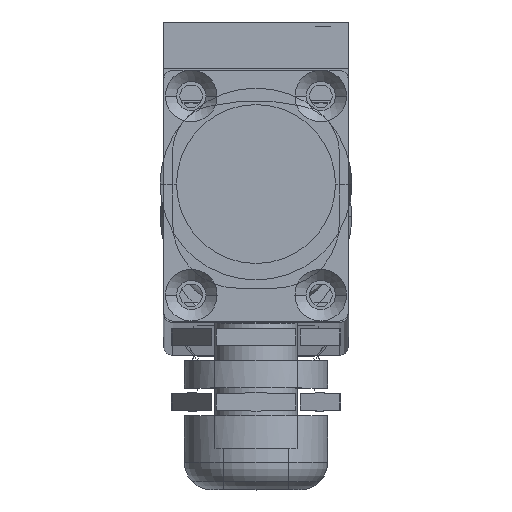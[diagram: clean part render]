
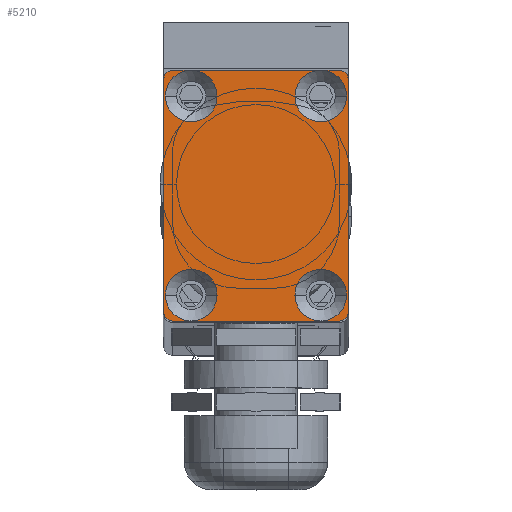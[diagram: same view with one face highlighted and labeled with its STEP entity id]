
A CAD part, top view. The second image highlights one B-rep face of the part: STEP entity #5210.
In plain terms, the highlighted planar face has unit normal (0, 0, 1).
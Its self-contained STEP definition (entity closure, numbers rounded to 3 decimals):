
#4857=CARTESIAN_POINT('',(-7.,-12.,2014.5));
#4858=DIRECTION('',(0.,0.,-1.));
#4859=DIRECTION('',(-1.,0.,0.));
#4860=AXIS2_PLACEMENT_3D('',#4857,#4858,#4859);
#4862=CARTESIAN_POINT('',(-7.,-12.,2014.5));
#4863=DIRECTION('',(0.,0.,-1.));
#4864=DIRECTION('',(0.,-1.,0.));
#4865=AXIS2_PLACEMENT_3D('',#4862,#4863,#4864);
#4867=DIRECTION('',(1.,0.,0.));
#4868=VECTOR('',#4867,2.);
#4869=CARTESIAN_POINT('',(-9.,-14.8,2014.5));
#4870=LINE('',#4869,#4868);
#4871=CARTESIAN_POINT('',(-9.,-13.8,2014.5));
#4872=DIRECTION('',(0.,0.,1.));
#4873=DIRECTION('',(-1.,0.,0.));
#4874=AXIS2_PLACEMENT_3D('',#4871,#4872,#4873);
#4876=DIRECTION('',(0.,-1.,0.));
#4877=VECTOR('',#4876,25.1);
#4878=CARTESIAN_POINT('',(-10.,11.3,2014.5));
#4879=LINE('',#4878,#4877);
#4880=CARTESIAN_POINT('',(-9.,11.3,2014.5));
#4881=DIRECTION('',(0.,0.,-1.));
#4882=DIRECTION('',(-1.,0.,0.));
#4883=AXIS2_PLACEMENT_3D('',#4880,#4881,#4882);
#4885=DIRECTION('',(1.,0.,0.));
#4886=VECTOR('',#4885,2.);
#4887=CARTESIAN_POINT('',(-9.,12.3,2014.5));
#4888=LINE('',#4887,#4886);
#4889=CARTESIAN_POINT('',(-7.,9.5,2014.5));
#4890=DIRECTION('',(0.,0.,-1.));
#4891=DIRECTION('',(-1.,0.,0.));
#4892=AXIS2_PLACEMENT_3D('',#4889,#4890,#4891);
#4894=CARTESIAN_POINT('',(-7.,9.5,2014.5));
#4895=DIRECTION('',(0.,0.,-1.));
#4896=DIRECTION('',(1.,0.,0.));
#4897=AXIS2_PLACEMENT_3D('',#4894,#4895,#4896);
#4899=CARTESIAN_POINT('',(-7.,9.5,2014.5));
#4900=DIRECTION('',(0.,0.,-1.));
#4901=DIRECTION('',(0.,1.,0.));
#4902=AXIS2_PLACEMENT_3D('',#4899,#4900,#4901);
#4904=DIRECTION('',(1.,0.,0.));
#4905=VECTOR('',#4904,14.);
#4906=CARTESIAN_POINT('',(-7.,12.3,2014.5));
#4907=LINE('',#4906,#4905);
#4908=CARTESIAN_POINT('',(7.,9.5,2014.5));
#4909=DIRECTION('',(0.,0.,-1.));
#4910=DIRECTION('',(-1.,0.,0.));
#4911=AXIS2_PLACEMENT_3D('',#4908,#4909,#4910);
#4913=CARTESIAN_POINT('',(7.,9.5,2014.5));
#4914=DIRECTION('',(0.,0.,-1.));
#4915=DIRECTION('',(1.,0.,0.));
#4916=AXIS2_PLACEMENT_3D('',#4913,#4914,#4915);
#4918=CARTESIAN_POINT('',(7.,9.5,2014.5));
#4919=DIRECTION('',(0.,0.,-1.));
#4920=DIRECTION('',(0.,1.,0.));
#4921=AXIS2_PLACEMENT_3D('',#4918,#4919,#4920);
#4923=DIRECTION('',(1.,0.,0.));
#4924=VECTOR('',#4923,2.);
#4925=CARTESIAN_POINT('',(7.,12.3,2014.5));
#4926=LINE('',#4925,#4924);
#4927=CARTESIAN_POINT('',(9.,11.3,2014.5));
#4928=DIRECTION('',(0.,0.,-1.));
#4929=DIRECTION('',(0.,1.,0.));
#4930=AXIS2_PLACEMENT_3D('',#4927,#4928,#4929);
#4932=DIRECTION('',(0.,1.,0.));
#4933=VECTOR('',#4932,25.1);
#4934=CARTESIAN_POINT('',(10.,-13.8,2014.5));
#4935=LINE('',#4934,#4933);
#4936=CARTESIAN_POINT('',(9.,-13.8,2014.5));
#4937=DIRECTION('',(0.,0.,1.));
#4938=DIRECTION('',(0.,-1.,0.));
#4939=AXIS2_PLACEMENT_3D('',#4936,#4937,#4938);
#4941=DIRECTION('',(1.,0.,0.));
#4942=VECTOR('',#4941,2.);
#4943=CARTESIAN_POINT('',(7.,-14.8,2014.5));
#4944=LINE('',#4943,#4942);
#4945=CARTESIAN_POINT('',(7.,-12.,2014.5));
#4946=DIRECTION('',(0.,0.,-1.));
#4947=DIRECTION('',(1.,0.,0.));
#4948=AXIS2_PLACEMENT_3D('',#4945,#4946,#4947);
#4950=CARTESIAN_POINT('',(7.,-12.,2014.5));
#4951=DIRECTION('',(0.,0.,-1.));
#4952=DIRECTION('',(-1.,0.,0.));
#4953=AXIS2_PLACEMENT_3D('',#4950,#4951,#4952);
#4955=CARTESIAN_POINT('',(7.,-12.,2014.5));
#4956=DIRECTION('',(0.,0.,-1.));
#4957=DIRECTION('',(0.,-1.,0.));
#4958=AXIS2_PLACEMENT_3D('',#4955,#4956,#4957);
#4960=DIRECTION('',(1.,0.,0.));
#4961=VECTOR('',#4960,14.);
#4962=CARTESIAN_POINT('',(-7.,-14.8,2014.5));
#4963=LINE('',#4962,#4961);
#4964=CARTESIAN_POINT('',(-7.,-12.,2014.5));
#4965=DIRECTION('',(0.,0.,-1.));
#4966=DIRECTION('',(1.,0.,0.));
#4967=AXIS2_PLACEMENT_3D('',#4964,#4965,#4966);
#5087=CARTESIAN_POINT('',(-9.,12.3,2014.5));
#5088=CARTESIAN_POINT('',(-10.,11.3,2014.5));
#5089=VERTEX_POINT('',#5087);
#5090=VERTEX_POINT('',#5088);
#5093=CARTESIAN_POINT('',(10.,11.3,2014.5));
#5095=VERTEX_POINT('',#5093);
#5097=CARTESIAN_POINT('',(9.,12.3,2014.5));
#5098=VERTEX_POINT('',#5097);
#5103=CARTESIAN_POINT('',(9.,-14.8,2014.5));
#5104=VERTEX_POINT('',#5103);
#5105=CARTESIAN_POINT('',(10.,-13.8,2014.5));
#5106=VERTEX_POINT('',#5105);
#5111=CARTESIAN_POINT('',(-10.,-13.8,2014.5));
#5112=VERTEX_POINT('',#5111);
#5113=CARTESIAN_POINT('',(-9.,-14.8,2014.5));
#5114=VERTEX_POINT('',#5113);
#5119=CARTESIAN_POINT('',(-9.8,-12.,2014.5));
#5120=CARTESIAN_POINT('',(-4.2,-12.,2014.5));
#5121=VERTEX_POINT('',#5119);
#5122=VERTEX_POINT('',#5120);
#5123=CARTESIAN_POINT('',(-7.,-14.8,2014.5));
#5124=VERTEX_POINT('',#5123);
#5129=CARTESIAN_POINT('',(-4.2,9.5,2014.5));
#5130=CARTESIAN_POINT('',(-9.8,9.5,2014.5));
#5131=VERTEX_POINT('',#5129);
#5132=VERTEX_POINT('',#5130);
#5133=CARTESIAN_POINT('',(-7.,12.3,2014.5));
#5134=VERTEX_POINT('',#5133);
#5139=CARTESIAN_POINT('',(4.2,9.5,2014.5));
#5140=CARTESIAN_POINT('',(7.,12.3,2014.5));
#5141=VERTEX_POINT('',#5139);
#5142=VERTEX_POINT('',#5140);
#5143=CARTESIAN_POINT('',(9.8,9.5,2014.5));
#5144=VERTEX_POINT('',#5143);
#5149=CARTESIAN_POINT('',(9.8,-12.,2014.5));
#5150=CARTESIAN_POINT('',(7.,-14.8,2014.5));
#5151=VERTEX_POINT('',#5149);
#5152=VERTEX_POINT('',#5150);
#5153=CARTESIAN_POINT('',(4.2,-12.,2014.5));
#5154=VERTEX_POINT('',#5153);
#5155=CARTESIAN_POINT('',(0.,-1.25,2014.5));
#5156=DIRECTION('',(0.,0.,1.));
#5157=DIRECTION('',(1.,0.,0.));
#5158=AXIS2_PLACEMENT_3D('',#5155,#5156,#5157);
#5159=PLANE('',#5158);
#5161=ORIENTED_EDGE('',*,*,#5160,.F.);
#5163=ORIENTED_EDGE('',*,*,#5162,.F.);
#5165=ORIENTED_EDGE('',*,*,#5164,.F.);
#5167=ORIENTED_EDGE('',*,*,#5166,.F.);
#5169=ORIENTED_EDGE('',*,*,#5168,.F.);
#5171=ORIENTED_EDGE('',*,*,#5170,.T.);
#5173=ORIENTED_EDGE('',*,*,#5172,.T.);
#5175=ORIENTED_EDGE('',*,*,#5174,.F.);
#5177=ORIENTED_EDGE('',*,*,#5176,.F.);
#5179=ORIENTED_EDGE('',*,*,#5178,.F.);
#5181=ORIENTED_EDGE('',*,*,#5180,.T.);
#5183=ORIENTED_EDGE('',*,*,#5182,.F.);
#5185=ORIENTED_EDGE('',*,*,#5184,.F.);
#5187=ORIENTED_EDGE('',*,*,#5186,.F.);
#5189=ORIENTED_EDGE('',*,*,#5188,.T.);
#5191=ORIENTED_EDGE('',*,*,#5190,.T.);
#5193=ORIENTED_EDGE('',*,*,#5192,.F.);
#5195=ORIENTED_EDGE('',*,*,#5194,.F.);
#5197=ORIENTED_EDGE('',*,*,#5196,.F.);
#5199=ORIENTED_EDGE('',*,*,#5198,.F.);
#5201=ORIENTED_EDGE('',*,*,#5200,.F.);
#5203=ORIENTED_EDGE('',*,*,#5202,.F.);
#5205=ORIENTED_EDGE('',*,*,#5204,.F.);
#5207=ORIENTED_EDGE('',*,*,#5206,.F.);
#5208=EDGE_LOOP('',(#5161,#5163,#5165,#5167,#5169,#5171,#5173,#5175,#5177,#5179,
#5181,#5183,#5185,#5187,#5189,#5191,#5193,#5195,#5197,#5199,#5201,#5203,#5205,
#5207));
#5209=FACE_OUTER_BOUND('',#5208,.F.);
#5210=ADVANCED_FACE('',(#5209),#5159,.T.);
#4861=CIRCLE('',#4860,2.8);
#4866=CIRCLE('',#4865,2.8);
#4875=CIRCLE('',#4874,1.);
#4884=CIRCLE('',#4883,1.);
#4893=CIRCLE('',#4892,2.8);
#4898=CIRCLE('',#4897,2.8);
#4903=CIRCLE('',#4902,2.8);
#4912=CIRCLE('',#4911,2.8);
#4917=CIRCLE('',#4916,2.8);
#4922=CIRCLE('',#4921,2.8);
#4931=CIRCLE('',#4930,1.);
#4940=CIRCLE('',#4939,1.);
#4949=CIRCLE('',#4948,2.8);
#4954=CIRCLE('',#4953,2.8);
#4959=CIRCLE('',#4958,2.8);
#4968=CIRCLE('',#4967,2.8);
#5160=EDGE_CURVE('',#5121,#5122,#4861,.T.);
#5162=EDGE_CURVE('',#5124,#5121,#4866,.T.);
#5164=EDGE_CURVE('',#5114,#5124,#4870,.T.);
#5166=EDGE_CURVE('',#5112,#5114,#4875,.T.);
#5168=EDGE_CURVE('',#5090,#5112,#4879,.T.);
#5170=EDGE_CURVE('',#5090,#5089,#4884,.T.);
#5172=EDGE_CURVE('',#5089,#5134,#4888,.T.);
#5174=EDGE_CURVE('',#5132,#5134,#4893,.T.);
#5176=EDGE_CURVE('',#5131,#5132,#4898,.T.);
#5178=EDGE_CURVE('',#5134,#5131,#4903,.T.);
#5180=EDGE_CURVE('',#5134,#5142,#4907,.T.);
#5182=EDGE_CURVE('',#5141,#5142,#4912,.T.);
#5184=EDGE_CURVE('',#5144,#5141,#4917,.T.);
#5186=EDGE_CURVE('',#5142,#5144,#4922,.T.);
#5188=EDGE_CURVE('',#5142,#5098,#4926,.T.);
#5190=EDGE_CURVE('',#5098,#5095,#4931,.T.);
#5192=EDGE_CURVE('',#5106,#5095,#4935,.T.);
#5194=EDGE_CURVE('',#5104,#5106,#4940,.T.);
#5196=EDGE_CURVE('',#5152,#5104,#4944,.T.);
#5198=EDGE_CURVE('',#5151,#5152,#4949,.T.);
#5200=EDGE_CURVE('',#5154,#5151,#4954,.T.);
#5202=EDGE_CURVE('',#5152,#5154,#4959,.T.);
#5204=EDGE_CURVE('',#5124,#5152,#4963,.T.);
#5206=EDGE_CURVE('',#5122,#5124,#4968,.T.);
